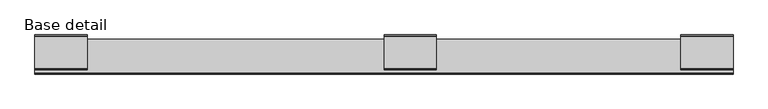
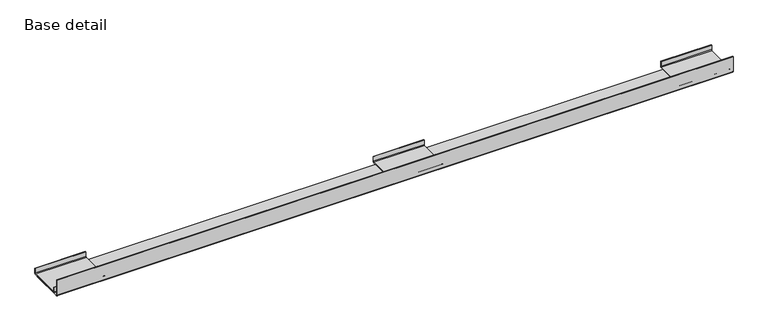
"""IFC4 building model written with IfcOpenShell, lengths in millimetres: beam geometry, TI-H-AI1_1_Base detail_BEAM : Base detail."""

from ifc_helpers import new_model, si_unit, point, frame, frame_2d, origin, place, context, project, spatial, polyline, circle_curve, trimmed, segment, composite_curve, outline, extrude, source, transform, mapped, element, save


def base_detail_11f6d321(model_context):
    return source(origin(), model_context, "Body", "SweptSolid", [
        extrude(outline(composite_curve([segment(polyline([(-12.0, 18.0), (-12.0, 4.0)]), True, "CONTINUOUS"), segment(trimmed(circle_curve(frame_2d((-16.0, 4.0)), 4.0), [point((-12.0, 4.0))], [point((-16.0, 0.0))], False, "CARTESIAN"), True, "CONTINUOUS"), segment(polyline([(-16.0, 0.0), (-108.0, 0.0)]), True, "CONTINUOUS"), segment(trimmed(circle_curve(frame_2d((-108.0, 4.0)), 4.0), [point((-108.0, 0.0))], [point((-112.0, 4.0))], False, "CARTESIAN"), True, "CONTINUOUS"), segment(polyline([(-112.0, 4.0), (-112.0, 18.0), (-110.0, 18.0), (-110.0, 4.0)]), True, "CONTINUOUS"), segment(trimmed(circle_curve(frame_2d((-108.0, 4.0)), 2.0), [point((-110.0, 4.0))], [point((-108.0, 2.0))], True, "CARTESIAN"), True, "CONTINUOUS"), segment(polyline([(-108.0, 2.0), (-16.0, 2.0)]), True, "CONTINUOUS"), segment(trimmed(circle_curve(frame_2d((-16.0, 4.0)), 2.0), [point((-16.0, 2.0))], [point((-14.0, 4.0))], True, "CARTESIAN"), True, "CONTINUOUS"), segment(polyline([(-14.0, 4.0), (-14.0, 18.0), (-12.0, 18.0)]), True, "CONTINUOUS")], self_intersect=False)), frame((791.2, 0.0, 0.0), z_axis=(1.0, 0.0, 0.0), x_axis=(0.0, 1.0, 0.0)), (0.0, 0.0, 1.0), 150.0),
        extrude(outline(composite_curve([segment(polyline([(-12.0, 18.0), (-12.0, 4.0)]), True, "CONTINUOUS"), segment(trimmed(circle_curve(frame_2d((-16.0, 4.0)), 4.0), [point((-12.0, 4.0))], [point((-16.0, 0.0))], False, "CARTESIAN"), True, "CONTINUOUS"), segment(polyline([(-16.0, 0.0), (-108.0, 0.0)]), True, "CONTINUOUS"), segment(trimmed(circle_curve(frame_2d((-108.0, 4.0)), 4.0), [point((-108.0, 0.0))], [point((-112.0, 4.0))], False, "CARTESIAN"), True, "CONTINUOUS"), segment(polyline([(-112.0, 4.0), (-112.0, 18.0), (-110.0, 18.0), (-110.0, 4.0)]), True, "CONTINUOUS"), segment(trimmed(circle_curve(frame_2d((-108.0, 4.0)), 2.0), [point((-110.0, 4.0))], [point((-108.0, 2.0))], True, "CARTESIAN"), True, "CONTINUOUS"), segment(polyline([(-108.0, 2.0), (-16.0, 2.0)]), True, "CONTINUOUS"), segment(trimmed(circle_curve(frame_2d((-16.0, 4.0)), 2.0), [point((-16.0, 2.0))], [point((-14.0, 4.0))], True, "CARTESIAN"), True, "CONTINUOUS"), segment(polyline([(-14.0, 4.0), (-14.0, 18.0), (-12.0, 18.0)]), True, "CONTINUOUS")], self_intersect=False)), frame((-61.85, 0.0, 0.0), z_axis=(1.0, 0.0, 0.0), x_axis=(0.0, 1.0, 0.0)), (0.0, 0.0, 1.0), 150.0),
        extrude(outline(composite_curve([segment(polyline([(-12.0, 18.0), (-12.0, 4.0)]), True, "CONTINUOUS"), segment(trimmed(circle_curve(frame_2d((-16.0, 4.0)), 4.0), [point((-12.0, 4.0))], [point((-16.0, 0.0))], False, "CARTESIAN"), True, "CONTINUOUS"), segment(polyline([(-16.0, 0.0), (-108.0, 0.0)]), True, "CONTINUOUS"), segment(trimmed(circle_curve(frame_2d((-108.0, 4.0)), 4.0), [point((-108.0, 0.0))], [point((-112.0, 4.0))], False, "CARTESIAN"), True, "CONTINUOUS"), segment(polyline([(-112.0, 4.0), (-112.0, 18.0), (-110.0, 18.0), (-110.0, 4.0)]), True, "CONTINUOUS"), segment(trimmed(circle_curve(frame_2d((-108.0, 4.0)), 2.0), [point((-110.0, 4.0))], [point((-108.0, 2.0))], True, "CARTESIAN"), True, "CONTINUOUS"), segment(polyline([(-108.0, 2.0), (-16.0, 2.0)]), True, "CONTINUOUS"), segment(trimmed(circle_curve(frame_2d((-16.0, 4.0)), 2.0), [point((-16.0, 2.0))], [point((-14.0, 4.0))], True, "CARTESIAN"), True, "CONTINUOUS"), segment(polyline([(-14.0, 4.0), (-14.0, 18.0), (-12.0, 18.0)]), True, "CONTINUOUS")], self_intersect=False)), frame((-1064.9, 0.0, 0.0), z_axis=(1.0, 0.0, 0.0), x_axis=(0.0, 1.0, 0.0)), (0.0, 0.0, 1.0), 150.0),
        extrude(outline(composite_curve([segment(trimmed(circle_curve(frame_2d((-121.5, 1.5)), 3.0), [point((-121.5, -1.5))], [point((-124.5, 1.5))], False, "CARTESIAN"), True, "CONTINUOUS"), segment(polyline([(-124.5, 1.5), (-124.5, 48.5), (-123.0, 48.5), (-123.0, 1.5)]), True, "CONTINUOUS"), segment(trimmed(circle_curve(frame_2d((-121.5, 1.5)), 1.5), [point((-123.0, 1.5))], [point((-121.5, 0.0))], True, "CARTESIAN"), True, "CONTINUOUS"), segment(polyline([(-121.5, 0.0), (-24.5, 0.0), (-24.5, -1.5), (-121.5, -1.5)]), True, "CONTINUOUS")], self_intersect=False)), frame((-1064.9, 0.0, 0.0), z_axis=(1.0, 0.0, 0.0), x_axis=(0.0, 1.0, 0.0)), (0.0, 0.0, 1.0), 2006.1),
    ])


if __name__ == "__main__":
    model = new_model("IFC4")
    model_context = context("Model", 3, world=origin())
    ifc_project = project(units=[si_unit("LENGTHUNIT", "METRE", prefix="MILLI")], contexts=[model_context])
    site = spatial("IfcSite", under=ifc_project)
    building = spatial("IfcBuilding", under=site)
    placement = place(None, origin())
    base_detail_shape = base_detail_11f6d321(model_context)
    element("IfcBeam", 1, ObjectType="TI-H-AI1_1_Base detail_BEAM : Base detail", at=placement, inside=building, context=model_context, shape_type="MappedRepresentation", body=[
        mapped(base_detail_shape, transform((0.0, 0.0, 0.0), x_axis=(1.0, 0.0, 0.0), y_axis=(0.0, 1.0, 0.0), z_axis=(0.0, 0.0, 1.0))),
    ])
    save(model, "model.ifc")
